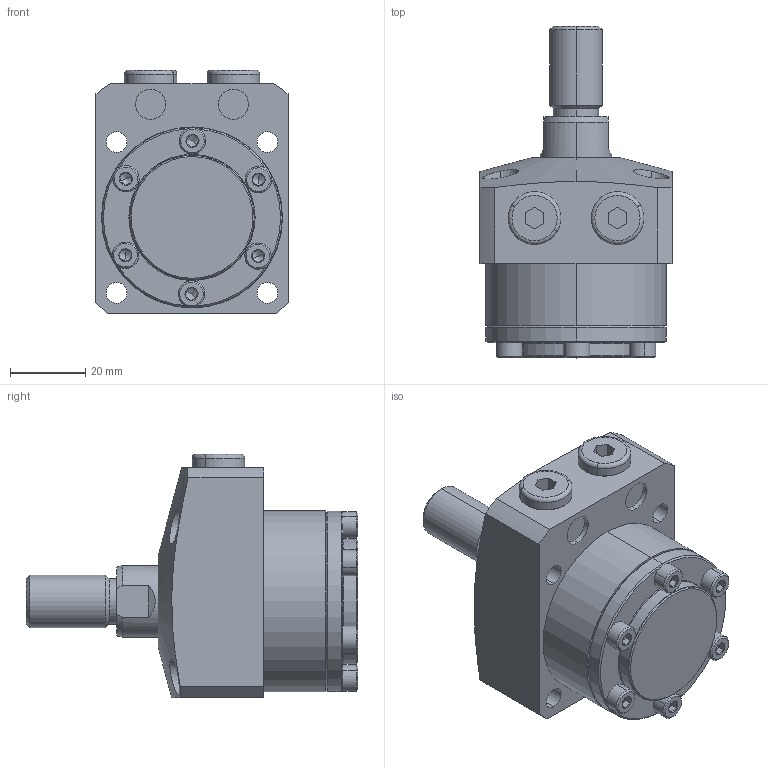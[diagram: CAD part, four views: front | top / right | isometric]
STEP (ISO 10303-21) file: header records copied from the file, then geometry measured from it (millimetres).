
FILE_DESCRIPTION (( 'STEP AP203' ), '1' );
FILE_NAME ('680480-CT-015.STEP', '2019-11-06T04:39:36', ( '微软用户' ), ( '微软中国' ), 'SwSTEP 2.0', 'SolidWorks 2014', '' );
FILE_SCHEMA (( 'CONFIG_CONTROL_DESIGN' ));
Length unit declared in the file: millimetre
Products named in the file (6): 葩璃 680480-CA-15-1^680480-CT-015; 葩璃 680480-CA-15-5^680480-CT-015; 葩璃 680480-CA-15-3^680480-CT-015; 葩璃 680480-15-12^680480-CT-015; 葩璃 680480-CA-15-4^680480-CT-015; 680480-CT-015
Assembly tree (11 placements, depth 2):
  680480-CT-015
    葩璃 680480-CA-15-1^680480-CT-015
    葩璃 680480-CA-15-3^680480-CT-015
    葩璃 680480-CA-15-4^680480-CT-015  x6
    葩璃 680480-CA-15-5^680480-CT-015  x2
    葩璃 680480-15-12^680480-CT-015
Bounding box: 51 x 88 x 64.5 mm (x, y, z)
Volume: 123167.9 mm3; surface area: 28484.9 mm2
Topology: 11 solids, 11 shells, 342 faces, 668 edges, 365 vertices
Faces by surface type: plane 139, cone 97, cylinder 90, torus 16
Entity records: 5549 total; most frequent: CARTESIAN_POINT 1137, DIRECTION 839, ORIENTED_EDGE 684, AXIS2_PLACEMENT_3D 350, EDGE_CURVE 342, VERTEX_POINT 208, EDGE_LOOP 198, CIRCLE 175
